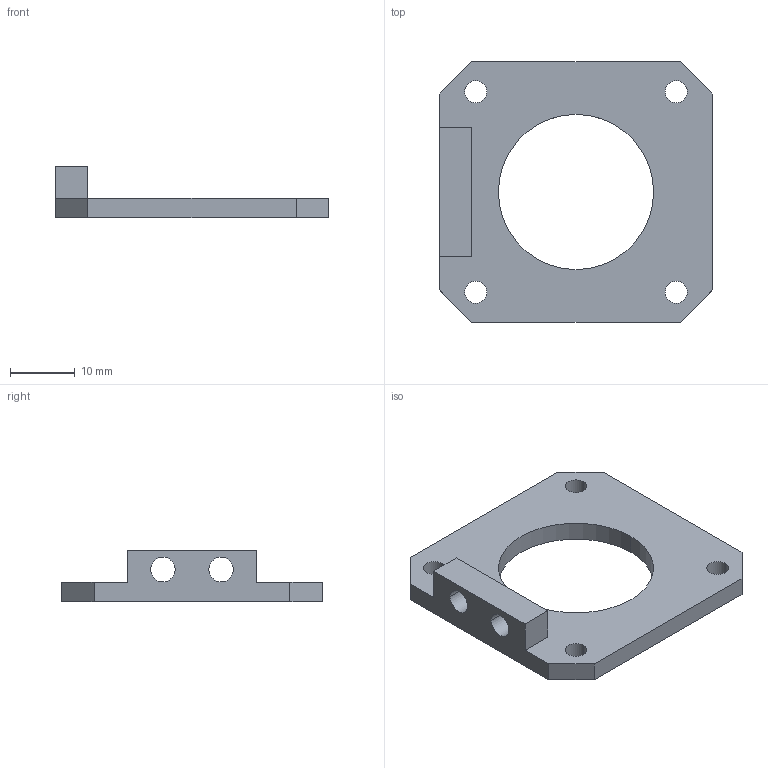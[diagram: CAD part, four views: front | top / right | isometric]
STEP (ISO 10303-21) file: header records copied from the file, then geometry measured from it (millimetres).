
FILE_DESCRIPTION((''),'2;1');
FILE_NAME('ART4MOTORFIX','2022-08-24T09:30:44',('domen.bizjak'),('Audax d.o.o.'),'CREO PARAMETRIC BY PTC INC, 2021184','CREO PARAMETRIC BY PTC INC, 2021184','');
FILE_SCHEMA(('AP242_MANAGED_MODEL_BASED_3D_ENGINEERING_MIM_LF { 1 0 10303 442 1 1 4 }'));
Length unit declared in the file: millimetre
Products named in the file (1): ART4MOTORFIX
Bounding box: 42.3 x 40.3 x 8 mm (x, y, z)
Volume: 3884.5 mm3; surface area: 3470.8 mm2
Topology: 1 solids, 1 shells, 28 faces, 83 edges, 62 vertices
Faces by surface type: plane 14, cylinder 14
Entity records: 1859 total; most frequent: COLOUR_RGB 319, DIRECTION 197, CARTESIAN_POINT 183, ORIENTED_EDGE 156, PRESENTATION_STYLE_ASSIGNMENT 90, STYLED_ITEM 90, CURVE_STYLE 85, EDGE_CURVE 78
